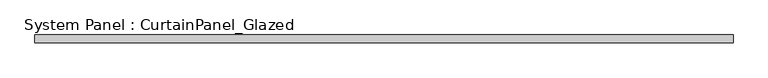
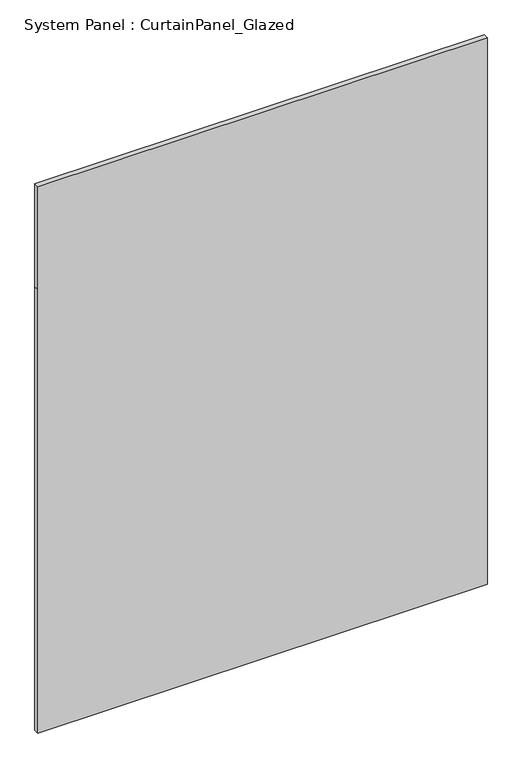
"""IFC4 building model written with IfcOpenShell, lengths in millimetres: plate geometry, System Panel : CurtainPanel_Glazed."""

from ifc_helpers import new_model, si_unit, frame, origin, place, context, project, spatial, polyline, outline, extrude, source, transform, mapped, element, save


def system_panel_curtainpanel_glazed_8eb9798f(model_context):
    return source(origin(), model_context, "Body", "SweptSolid", [
        extrude(outline(polyline([(0.0, -1138.6000001), (0.0, 1138.6000001), (2375.0, 1138.6000001), (2925.0, 1138.6000001), (2925.0, -1138.6000001), (2375.0, -1138.6000001), (0.0, -1138.6000001)])), frame((0.0, -12.5, 0.0), z_axis=(0.0, 1.0, 0.0), x_axis=(0.0, 0.0, 1.0)), (0.0, 0.0, 1.0), 25.0),
    ])


if __name__ == "__main__":
    model = new_model("IFC4")
    model_context = context("Model", 3, world=origin())
    ifc_project = project(units=[si_unit("LENGTHUNIT", "METRE", prefix="MILLI")], contexts=[model_context])
    site = spatial("IfcSite", under=ifc_project)
    building = spatial("IfcBuilding", under=site)
    placement = place(None, origin())
    system_panel_curtainpanel_glazed_shape = system_panel_curtainpanel_glazed_8eb9798f(model_context)
    element("IfcPlate", 1, ObjectType="System Panel : CurtainPanel_Glazed", at=placement, inside=building, context=model_context, shape_type="MappedRepresentation", body=[
        mapped(system_panel_curtainpanel_glazed_shape, transform((0.0, 0.0, 0.0), x_axis=(1.0, 0.0, 0.0), y_axis=(0.0, 1.0, 0.0), z_axis=(0.0, 0.0, 1.0))),
    ])
    save(model, "model.ifc")
